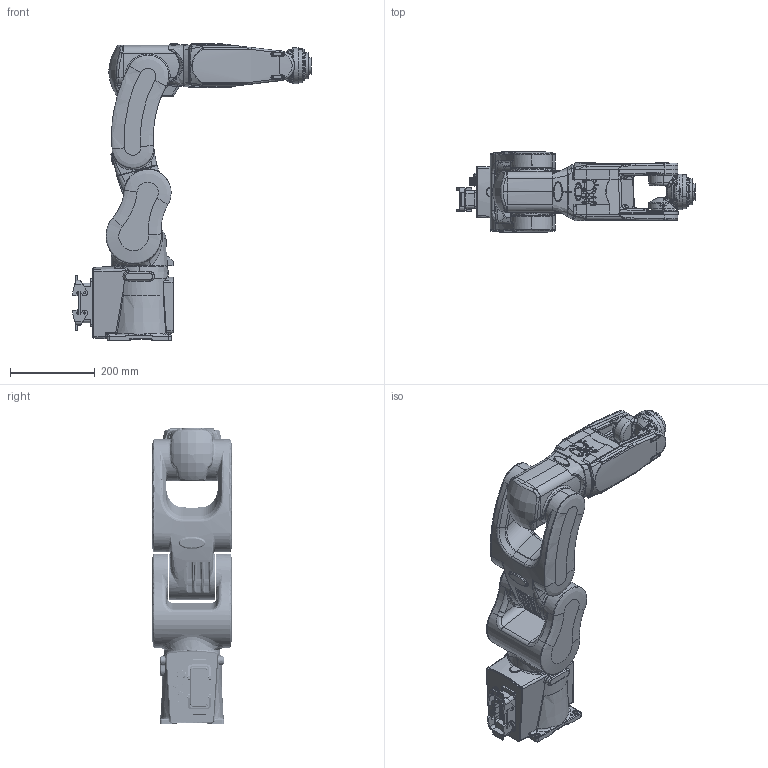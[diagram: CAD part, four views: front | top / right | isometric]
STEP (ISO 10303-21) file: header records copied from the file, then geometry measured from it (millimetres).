
FILE_DESCRIPTION (( 'STEP AP203' ), '1' );
FILE_NAME ('HH4 TOTAL 20210729(¼Õ¸ñ¼öÁ¤).STEP', '2023-05-24T02:10:16', ( 'fulluser' ), ( '' ), 'SwSTEP 2.0', 'SolidWorks 2020', '' );
FILE_SCHEMA (( 'CONFIG_CONTROL_DESIGN' ));
Length unit declared in the file: millimetre
Products named in the file (7): HH4 TOTAL 20210729(槳跡熱薑); LOWER FRAME2^HH4 TOTAL 20210729(2)_HH4 TOTAL 20210729; BASE BODAY1^HH4 TOTAL 20210729(2)_HH4 TOTAL 20210729; HH4 TOTAL 20210729(2)^HH4 TOTAL 20210729; upper frame1^HH4 TOTAL 20210729(2)_HH4 TOTAL 20210729; P7900034150_00-ASSY _ HH4E WRIST_1; arm frame1^HH4 TOTAL 20210729(2)_HH4 TOTAL 20210729
Assembly tree (6 placements, depth 3):
  HH4 TOTAL 20210729(槳跡熱薑)
    HH4 TOTAL 20210729(2)^HH4 TOTAL 20210729
      BASE BODAY1^HH4 TOTAL 20210729(2)_HH4 TOTAL 20210729
      LOWER FRAME2^HH4 TOTAL 20210729(2)_HH4 TOTAL 20210729
      upper frame1^HH4 TOTAL 20210729(2)_HH4 TOTAL 20210729
      arm frame1^HH4 TOTAL 20210729(2)_HH4 TOTAL 20210729
      P7900034150_00-ASSY _ HH4E WRIST_1
Bounding box: 562.1 x 190 x 699 mm (x, y, z)
Volume: 11889505.7 mm3; surface area: 1336547.5 mm2
Topology: 31 solids, 59 shells, 5128 faces, 12896 edges, 8181 vertices
Faces by surface type: plane 1951, cylinder 1680, bspline 874, cone 246, torus 238, sphere 139
Entity records: 251495 total; most frequent: CARTESIAN_POINT 149444, ORIENTED_EDGE 25514, DIRECTION 13570, EDGE_CURVE 12761, B_SPLINE_CURVE_WITH_KNOTS 9227, VERTEX_POINT 8160, AXIS2_PLACEMENT_3D 6063, EDGE_LOOP 5845
